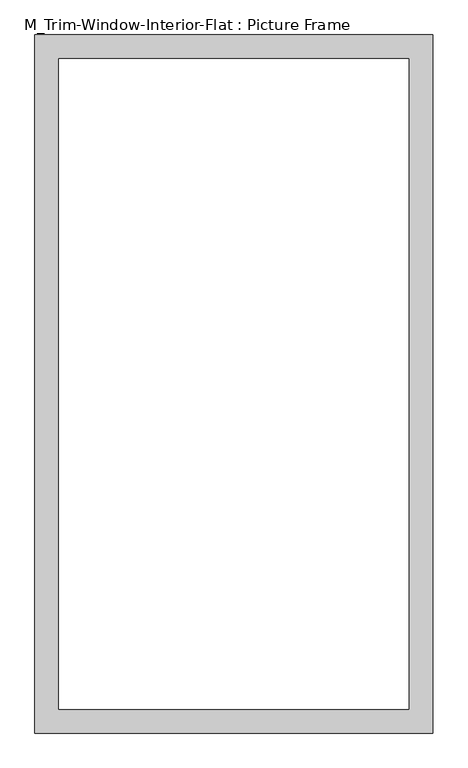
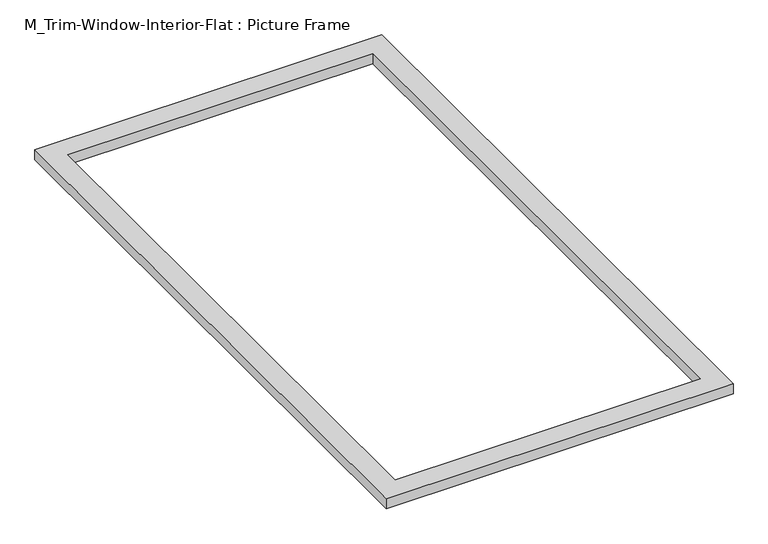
"""IFC4 building model written with IfcOpenShell, lengths in millimetres: proxy geometry, M_Trim-Window-Interior-Flat : Picture Frame."""

from ifc_helpers import new_model, si_unit, origin, origin_with_axes, place, context, project, spatial, polyline, outline, extrude, source, transform, mapped, element, save


def m_trim_window_interior_flat_picture_frame_313add5a(model_context):
    return source(origin(), model_context, "Body", "SweptSolid", [
        extrude(outline(polyline([(497.3, 47.3), (497.3, -1697.3), (-497.3, -1697.3), (-497.3, 47.3), (497.3, 47.3)]), holes=[polyline([(437.3, -12.7), (-437.3, -12.7), (-437.3, -1637.3), (437.3, -1637.3), (437.3, -12.7)])]), origin_with_axes(), (0.0, 0.0, 1.0), 30.0),
    ])


if __name__ == "__main__":
    model = new_model("IFC4")
    model_context = context("Model", 3, world=origin())
    ifc_project = project(units=[si_unit("LENGTHUNIT", "METRE", prefix="MILLI")], contexts=[model_context])
    site = spatial("IfcSite", under=ifc_project)
    building = spatial("IfcBuilding", under=site)
    placement = place(None, origin())
    m_trim_window_interior_flat_picture_frame_shape = m_trim_window_interior_flat_picture_frame_313add5a(model_context)
    element("IfcBuildingElementProxy", 1, Name="M_Trim-Window-Interior-Flat : Picture Frame", ObjectType="M_Trim-Window-Interior-Flat : Picture Frame", at=placement, inside=building, context=model_context, shape_type="MappedRepresentation", body=[
        mapped(m_trim_window_interior_flat_picture_frame_shape, transform((0.0, 0.0, 0.0), x_axis=(1.0, 0.0, 0.0), y_axis=(0.0, 1.0, 0.0), z_axis=(0.0, 0.0, 1.0))),
    ])
    save(model, "model.ifc")
